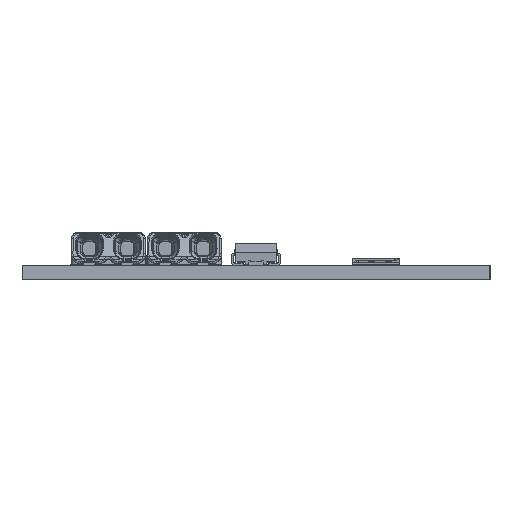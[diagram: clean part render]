
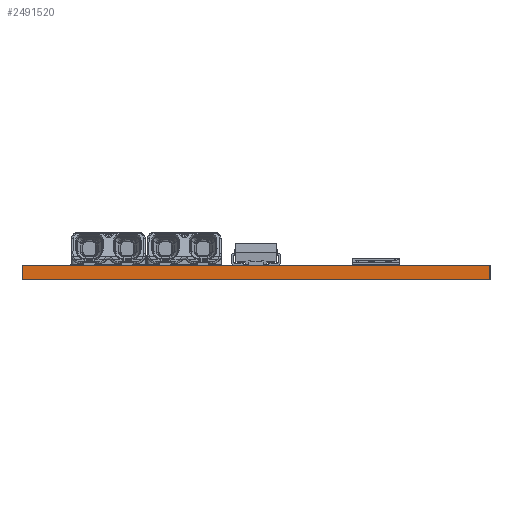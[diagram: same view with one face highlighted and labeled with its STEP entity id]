
A CAD part, left-side view. The second image highlights one B-rep face of the part: STEP entity #2491520.
In plain terms, the highlighted planar face has unit normal (-1, 0, 0).
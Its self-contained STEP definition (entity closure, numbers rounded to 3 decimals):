
#2487560=CARTESIAN_POINT('',(659.637,520.441,0.));
#2487570=DIRECTION('',(0.,-1.,0.));
#2487580=VECTOR('',#2487570,1.);
#2487590=LINE('',#2487560,#2487580);
#2487600=CARTESIAN_POINT('',(659.637,520.441,0.));
#2487610=VERTEX_POINT('',#2487600);
#2487620=CARTESIAN_POINT('',(659.637,470.941,0.));
#2487630=VERTEX_POINT('',#2487620);
#2487640=EDGE_CURVE('',#2487610,#2487630,#2487590,.T.);
#2491160=CARTESIAN_POINT('',(659.637,470.941,-1.5));
#2491170=VERTEX_POINT('',#2491160);
#2491200=CARTESIAN_POINT('',(659.637,470.941,-1.5));
#2491210=DIRECTION('',(0.,0.,1.));
#2491220=VECTOR('',#2491210,1.);
#2491230=LINE('',#2491200,#2491220);
#2491240=EDGE_CURVE('',#2491170,#2487630,#2491230,.T.);
#2491290=CARTESIAN_POINT('',(659.637,470.941,0.));
#2491300=DIRECTION('',(1.,0.,0.));
#2491310=DIRECTION('',(0.,-1.,0.));
#2491320=AXIS2_PLACEMENT_3D('',#2491290,#2491300,#2491310);
#2491330=PLANE('',#2491320);
#2491340=ORIENTED_EDGE('',*,*,#2487640,.F.);
#2491350=ORIENTED_EDGE('',*,*,#2491240,.T.);
#2491360=CARTESIAN_POINT('',(659.637,520.441,-1.5));
#2491370=DIRECTION('',(0.,-1.,0.));
#2491380=VECTOR('',#2491370,1.);
#2491390=LINE('',#2491360,#2491380);
#2491400=CARTESIAN_POINT('',(659.637,520.441,-1.5));
#2491410=VERTEX_POINT('',#2491400);
#2491420=EDGE_CURVE('',#2491410,#2491170,#2491390,.T.);
#2491430=ORIENTED_EDGE('',*,*,#2491420,.T.);
#2491440=CARTESIAN_POINT('',(659.637,520.441,-1.5));
#2491450=DIRECTION('',(0.,0.,1.));
#2491460=VECTOR('',#2491450,1.);
#2491470=LINE('',#2491440,#2491460);
#2491480=EDGE_CURVE('',#2491410,#2487610,#2491470,.T.);
#2491490=ORIENTED_EDGE('',*,*,#2491480,.F.);
#2491500=EDGE_LOOP('',(#2491490,#2491430,#2491350,#2491340));
#2491510=FACE_OUTER_BOUND('',#2491500,.T.);
#2491520=ADVANCED_FACE('',(#2491510),#2491330,.F.);
